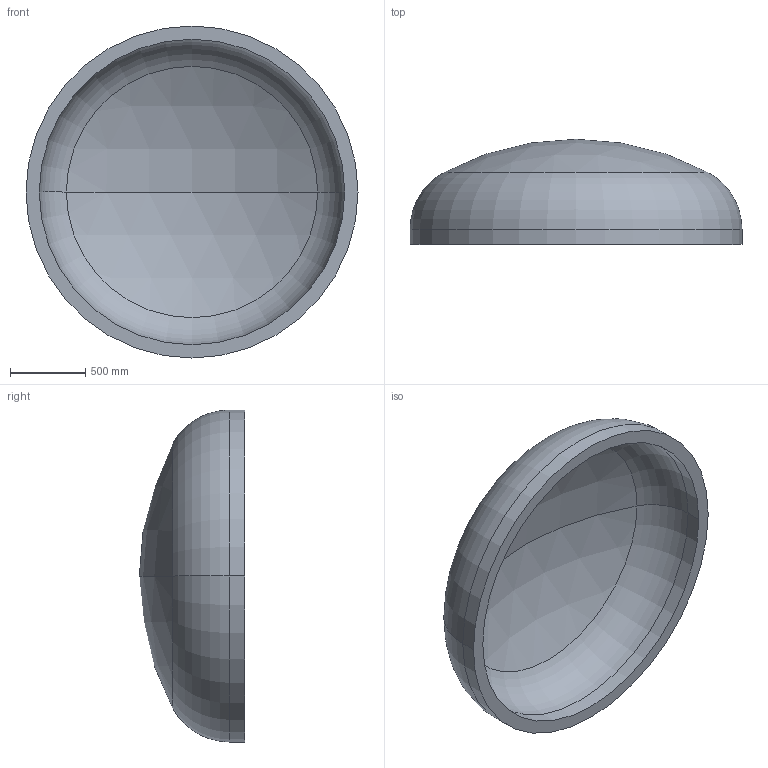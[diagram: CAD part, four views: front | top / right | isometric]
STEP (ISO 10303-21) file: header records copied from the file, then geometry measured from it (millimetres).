
FILE_DESCRIPTION (( 'STEP AP203' ), '1' );
FILE_NAME ('DIN 28013 Korbbogenform_-_Boden DIN 28013 - 2200 x 100 - I - s=88.step', '2016-07-01T14:50:49', ( '' ), ( '' ), 'SwSTEP 2.0', 'SolidWorks 2013', '' );
FILE_SCHEMA (( 'CONFIG_CONTROL_DESIGN' ));
Length unit declared in the file: millimetre
Products named in the file (1): DIN 28013 Korbbogenform_-_Boden DIN 28013 - 2200 x 100 - I - s=88
Bounding box: 2200 x 697.07 x 2200 mm (x, y, z)
Volume: 498605377.8 mm3; surface area: 11932039.9 mm2
Topology: 1 solids, 1 shells, 13 faces, 24 edges, 14 vertices
Faces by surface type: torus 4, cylinder 4, sphere 4, plane 1
Entity records: 407 total; most frequent: DIRECTION 72, CARTESIAN_POINT 52, ORIENTED_EDGE 48, AXIS2_PLACEMENT_3D 34, EDGE_CURVE 24, CIRCLE 20, EDGE_LOOP 14, VERTEX_POINT 14
